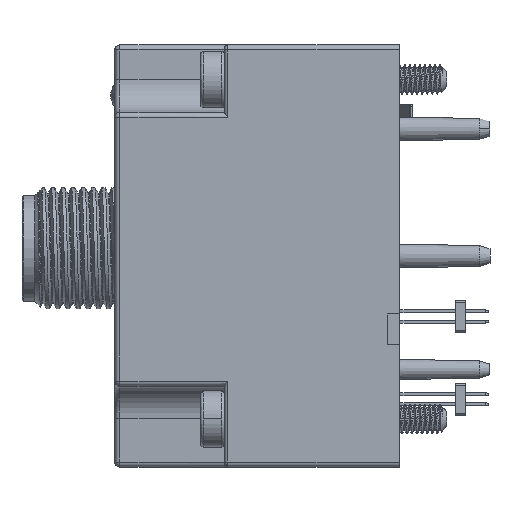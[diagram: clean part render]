
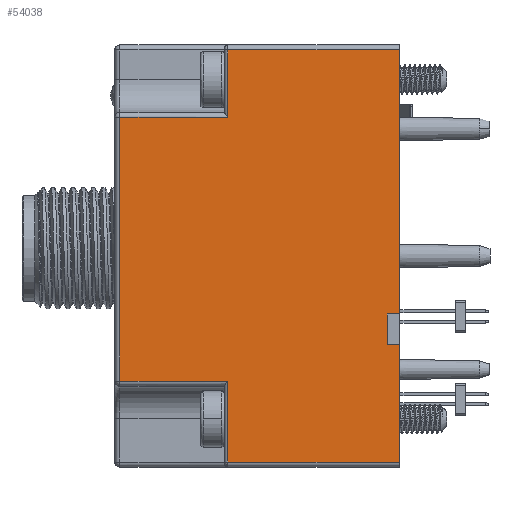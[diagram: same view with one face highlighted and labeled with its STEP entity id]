
A CAD part, left-side view. The second image highlights one B-rep face of the part: STEP entity #54038.
In plain terms, the highlighted planar face has unit normal (-1, 0, 0).
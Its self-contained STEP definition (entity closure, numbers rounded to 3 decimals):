
#16 = LINE ( 'NONE', #85474, #69092 ) ;
#1078 = VECTOR ( 'NONE', #54108, 1000. ) ;
#2558 = ORIENTED_EDGE ( 'NONE', *, *, #57542, .F. ) ;
#4744 = CARTESIAN_POINT ( 'NONE',  ( -19.999, 35.272, 50.998 ) ) ;
#4753 = CARTESIAN_POINT ( 'NONE',  ( -19.999, 52.272, 50.498 ) ) ;
#4960 = DIRECTION ( 'NONE',  ( 0., 1., 0. ) ) ;
#6013 = DIRECTION ( 'NONE',  ( 0., 1., 0. ) ) ;
#8100 = EDGE_CURVE ( 'NONE', #53269, #12868, #26940, .T. ) ;
#8106 = EDGE_CURVE ( 'NONE', #14390, #65815, #22605, .T. ) ;
#11254 = EDGE_CURVE ( 'NONE', #73087, #51744, #14867, .T. ) ;
#11305 = CARTESIAN_POINT ( 'NONE',  ( -19.999, 62.972, 85.173 ) ) ;
#12868 = VERTEX_POINT ( 'NONE', #39357 ) ;
#13152 = CARTESIAN_POINT ( 'NONE',  ( -19.999, 52.272, 85.173 ) ) ;
#13594 = VECTOR ( 'NONE', #57600, 1000. ) ;
#13604 = EDGE_CURVE ( 'NONE', #65750, #14390, #38483, .T. ) ;
#14390 = VERTEX_POINT ( 'NONE', #13152 ) ;
#14867 = LINE ( 'NONE', #17069, #20218 ) ;
#15026 = ORIENTED_EDGE ( 'NONE', *, *, #76223, .F. ) ;
#15898 = CARTESIAN_POINT ( 'NONE',  ( -19.999, 63.472, 85.173 ) ) ;
#17069 = CARTESIAN_POINT ( 'NONE',  ( -19.999, 35.272, 50.498 ) ) ;
#17223 = VECTOR ( 'NONE', #4960, 1000. ) ;
#17557 = ORIENTED_EDGE ( 'NONE', *, *, #56262, .F. ) ;
#19178 = CARTESIAN_POINT ( 'NONE',  ( -19.999, 36.472, 65.673 ) ) ;
#19440 = DIRECTION ( 'NONE',  ( 0., 0., 1. ) ) ;
#19547 = EDGE_CURVE ( 'NONE', #65838, #65750, #29217, .T. ) ;
#19860 = VERTEX_POINT ( 'NONE', #19178 ) ;
#20218 = VECTOR ( 'NONE', #30683, 1000. ) ;
#21337 = VERTEX_POINT ( 'NONE', #36872 ) ;
#21990 = CARTESIAN_POINT ( 'NONE',  ( -19.999, 36.472, 62.673 ) ) ;
#22605 = LINE ( 'NONE', #29786, #1078 ) ;
#25260 = AXIS2_PLACEMENT_3D ( 'NONE', #31134, #31447, #79541 ) ;
#25488 = CARTESIAN_POINT ( 'NONE',  ( -19.999, 62.972, 59.023 ) ) ;
#26940 = LINE ( 'NONE', #88666, #17223 ) ;
#26979 = DIRECTION ( 'NONE',  ( 0., -1., 0. ) ) ;
#26998 = VECTOR ( 'NONE', #6013, 1000. ) ;
#27262 = LINE ( 'NONE', #88158, #59718 ) ;
#29217 = LINE ( 'NONE', #83992, #42125 ) ;
#29786 = CARTESIAN_POINT ( 'NONE',  ( -19.999, 52.272, 50.498 ) ) ;
#30683 = DIRECTION ( 'NONE',  ( 0., 0., 1. ) ) ;
#30873 = LINE ( 'NONE', #67427, #86117 ) ;
#31134 = CARTESIAN_POINT ( 'NONE',  ( -19.999, 63.472, 50.498 ) ) ;
#31447 = DIRECTION ( 'NONE',  ( 1., 0., 0. ) ) ;
#35032 = ORIENTED_EDGE ( 'NONE', *, *, #8100, .F. ) ;
#35872 = DIRECTION ( 'NONE',  ( 0., 0., 1. ) ) ;
#36512 = CARTESIAN_POINT ( 'NONE',  ( -19.999, 36.472, 50.498 ) ) ;
#36627 = LINE ( 'NONE', #36512, #77761 ) ;
#36872 = CARTESIAN_POINT ( 'NONE',  ( -19.999, 52.272, 59.023 ) ) ;
#38483 = LINE ( 'NONE', #15898, #13594 ) ;
#39331 = VERTEX_POINT ( 'NONE', #82456 ) ;
#39357 = CARTESIAN_POINT ( 'NONE',  ( -19.999, 52.272, 50.998 ) ) ;
#40737 = EDGE_CURVE ( 'NONE', #39331, #72669, #82192, .T. ) ;
#41286 = EDGE_CURVE ( 'NONE', #19860, #73087, #27262, .T. ) ;
#42125 = VECTOR ( 'NONE', #35872, 1000. ) ;
#46524 = ORIENTED_EDGE ( 'NONE', *, *, #81452, .T. ) ;
#47294 = CARTESIAN_POINT ( 'NONE',  ( -19.999, 36.472, 62.673 ) ) ;
#47929 = ORIENTED_EDGE ( 'NONE', *, *, #11254, .T. ) ;
#49033 = FACE_OUTER_BOUND ( 'NONE', #64928, .T. ) ;
#51744 = VERTEX_POINT ( 'NONE', #83540 ) ;
#53269 = VERTEX_POINT ( 'NONE', #4744 ) ;
#54038 = ADVANCED_FACE ( 'NONE', ( #49033 ), #64721, .F. ) ;
#54108 = DIRECTION ( 'NONE',  ( 0., 0., 1. ) ) ;
#56262 = EDGE_CURVE ( 'NONE', #12868, #21337, #66055, .T. ) ;
#56646 = ORIENTED_EDGE ( 'NONE', *, *, #41286, .T. ) ;
#57542 = EDGE_CURVE ( 'NONE', #65815, #51744, #16, .T. ) ;
#57600 = DIRECTION ( 'NONE',  ( 0., -1., 0. ) ) ;
#59718 = VECTOR ( 'NONE', #26979, 1000. ) ;
#60642 = EDGE_CURVE ( 'NONE', #21337, #65838, #30873, .T. ) ;
#63997 = DIRECTION ( 'NONE',  ( 0., -1., 0. ) ) ;
#64721 = PLANE ( 'NONE',  #25260 ) ;
#64920 = DIRECTION ( 'NONE',  ( 0., 0., -1. ) ) ;
#64928 = EDGE_LOOP ( 'NONE', ( #69547, #75348, #85298, #69774, #17557, #35032, #46524, #84267, #15026, #56646, #47929, #2558 ) ) ;
#65750 = VERTEX_POINT ( 'NONE', #11305 ) ;
#65815 = VERTEX_POINT ( 'NONE', #66319 ) ;
#65838 = VERTEX_POINT ( 'NONE', #25488 ) ;
#66055 = LINE ( 'NONE', #4753, #75742 ) ;
#66319 = CARTESIAN_POINT ( 'NONE',  ( -19.999, 52.272, 91.848 ) ) ;
#67427 = CARTESIAN_POINT ( 'NONE',  ( -19.999, 63.472, 59.023 ) ) ;
#67711 = DIRECTION ( 'NONE',  ( 0., 1., 0. ) ) ;
#68896 = DIRECTION ( 'NONE',  ( 0., 0., 1. ) ) ;
#69092 = VECTOR ( 'NONE', #63997, 1000. ) ;
#69547 = ORIENTED_EDGE ( 'NONE', *, *, #8106, .F. ) ;
#69774 = ORIENTED_EDGE ( 'NONE', *, *, #60642, .F. ) ;
#72669 = VERTEX_POINT ( 'NONE', #21990 ) ;
#73087 = VERTEX_POINT ( 'NONE', #77641 ) ;
#75348 = ORIENTED_EDGE ( 'NONE', *, *, #13604, .F. ) ;
#75742 = VECTOR ( 'NONE', #19440, 1000. ) ;
#76223 = EDGE_CURVE ( 'NONE', #19860, #72669, #36627, .T. ) ;
#77641 = CARTESIAN_POINT ( 'NONE',  ( -19.999, 35.272, 65.673 ) ) ;
#77761 = VECTOR ( 'NONE', #64920, 1000. ) ;
#79541 = DIRECTION ( 'NONE',  ( 0., 0., -1. ) ) ;
#81452 = EDGE_CURVE ( 'NONE', #53269, #39331, #86127, .T. ) ;
#81756 = VECTOR ( 'NONE', #68896, 1000. ) ;
#82192 = LINE ( 'NONE', #47294, #26998 ) ;
#82456 = CARTESIAN_POINT ( 'NONE',  ( -19.999, 35.272, 62.673 ) ) ;
#82546 = CARTESIAN_POINT ( 'NONE',  ( -19.999, 35.272, 50.498 ) ) ;
#83540 = CARTESIAN_POINT ( 'NONE',  ( -19.999, 35.272, 91.848 ) ) ;
#83992 = CARTESIAN_POINT ( 'NONE',  ( -19.999, 62.972, 50.498 ) ) ;
#84267 = ORIENTED_EDGE ( 'NONE', *, *, #40737, .T. ) ;
#85298 = ORIENTED_EDGE ( 'NONE', *, *, #19547, .F. ) ;
#85474 = CARTESIAN_POINT ( 'NONE',  ( -19.999, 63.472, 91.848 ) ) ;
#86117 = VECTOR ( 'NONE', #67711, 1000. ) ;
#86127 = LINE ( 'NONE', #82546, #81756 ) ;
#88158 = CARTESIAN_POINT ( 'NONE',  ( -19.999, 36.472, 65.673 ) ) ;
#88666 = CARTESIAN_POINT ( 'NONE',  ( -19.999, 63.472, 50.998 ) ) ;
